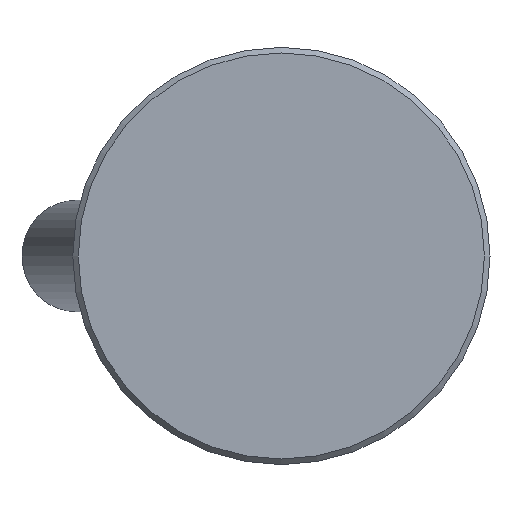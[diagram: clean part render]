
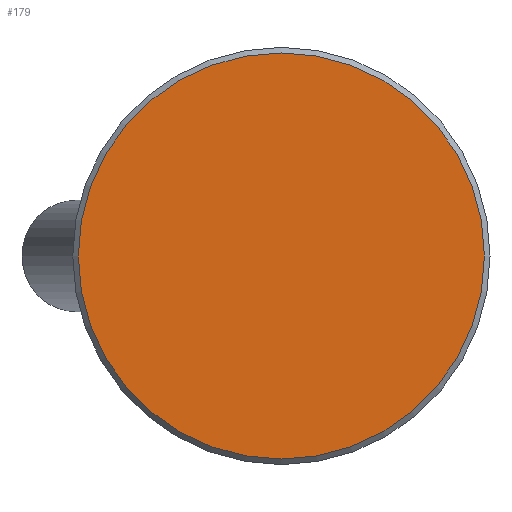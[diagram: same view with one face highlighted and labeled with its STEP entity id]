
A CAD part, front view. The second image highlights one B-rep face of the part: STEP entity #179.
In plain terms, the highlighted planar face has unit normal (0, -1, 0).
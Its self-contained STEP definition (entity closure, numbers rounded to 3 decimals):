
#179 = ADVANCED_FACE( '', ( #358 ), #359, .F. );
#358 = FACE_OUTER_BOUND( '', #558, .T. );
#359 = PLANE( '', #559 );
#558 = EDGE_LOOP( '', ( #820 ) );
#559 = AXIS2_PLACEMENT_3D( '', #821, #822, #823 );
#820 = ORIENTED_EDGE( '', *, *, #1170, .T. );
#821 = CARTESIAN_POINT( '', ( 29.2, 0., 0. ) );
#822 = DIRECTION( '', ( 0., 1., 0. ) );
#823 = DIRECTION( '', ( 0., 0., 1. ) );
#1170 = EDGE_CURVE( '', #1362, #1362, #1363, .T. );
#1362 = VERTEX_POINT( '', #1707 );
#1363 = CIRCLE( '', #1708, 29.2 );
#1707 = CARTESIAN_POINT( '', ( 0., 0., -29.2 ) );
#1708 = AXIS2_PLACEMENT_3D( '', #2068, #2069, #2070 );
#2068 = CARTESIAN_POINT( '', ( 0., 0., 0. ) );
#2069 = DIRECTION( '', ( 0., -1., 0. ) );
#2070 = DIRECTION( '', ( 0., 0., -1. ) );
